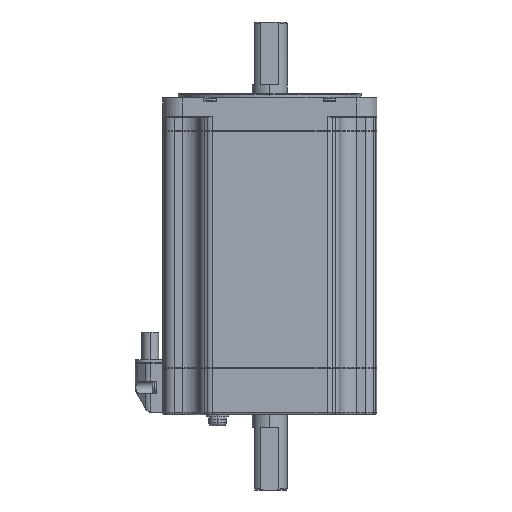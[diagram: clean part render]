
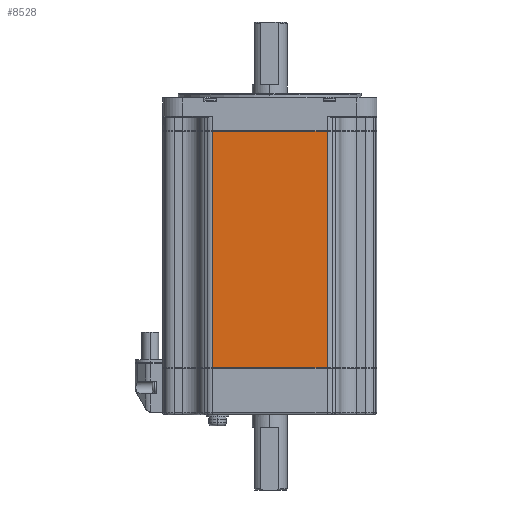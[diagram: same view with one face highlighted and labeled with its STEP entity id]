
A CAD part, left-side view. The second image highlights one B-rep face of the part: STEP entity #8528.
In plain terms, the highlighted planar face has unit normal (-1, 0, 0).
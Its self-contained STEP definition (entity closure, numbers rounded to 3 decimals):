
#4601 = EDGE_LOOP ( 'NONE', ( #14474, #14472, #14473, #14471 ) ) ;
#5608 = PLANE ( 'NONE',  #20080 ) ;
#5609 = CARTESIAN_POINT ( 'NONE',  ( -42.75, 22.879, -108.2 ) ) ;
#5610 = DIRECTION ( 'NONE',  ( 1., 0., 0. ) ) ;
#5611 = DIRECTION ( 'NONE',  ( 0., 0., -1. ) ) ;
#5734 = CARTESIAN_POINT ( 'NONE',  ( -42.75, 22.879, -13.7 ) ) ;
#5735 = DIRECTION ( 'NONE',  ( 0., 1., 0. ) ) ;
#5736 = CARTESIAN_POINT ( 'NONE',  ( -42.75, 22.879, -108.2 ) ) ;
#5737 = DIRECTION ( 'NONE',  ( 0., 0., 1. ) ) ;
#5738 = CARTESIAN_POINT ( 'NONE',  ( -42.75, 22.879, -108. ) ) ;
#5739 = DIRECTION ( 'NONE',  ( 0., -1., 0. ) ) ;
#5743 = CARTESIAN_POINT ( 'NONE',  ( -42.75, -22.879, -108.2 ) ) ;
#5744 = DIRECTION ( 'NONE',  ( 0., 0., 1. ) ) ;
#8528 = ADVANCED_FACE ( 'NONE', ( #10710 ), #5608, .F. ) ;
#10667 = LINE ( 'NONE', #5743, #20008 ) ;
#10668 = LINE ( 'NONE', #5738, #20011 ) ;
#10669 = LINE ( 'NONE', #5736, #20013 ) ;
#10670 = LINE ( 'NONE', #5734, #20016 ) ;
#10710 = FACE_OUTER_BOUND ( 'NONE', #4601, .T. ) ;
#11174 = EDGE_CURVE ( 'NONE', #22435, #22437, #10670, .T. ) ;
#11175 = EDGE_CURVE ( 'NONE', #22436, #22437, #10669, .T. ) ;
#11176 = EDGE_CURVE ( 'NONE', #22436, #22434, #10668, .T. ) ;
#11178 = EDGE_CURVE ( 'NONE', #22434, #22435, #10667, .T. ) ;
#14471 = ORIENTED_EDGE ( 'NONE', *, *, #11174, .T. ) ;
#14472 = ORIENTED_EDGE ( 'NONE', *, *, #11176, .T. ) ;
#14473 = ORIENTED_EDGE ( 'NONE', *, *, #11178, .T. ) ;
#14474 = ORIENTED_EDGE ( 'NONE', *, *, #11175, .F. ) ;
#20008 = VECTOR ( 'NONE', #5744, 1000. ) ;
#20011 = VECTOR ( 'NONE', #5739, 1000. ) ;
#20013 = VECTOR ( 'NONE', #5737, 1000. ) ;
#20016 = VECTOR ( 'NONE', #5735, 1000. ) ;
#20080 = AXIS2_PLACEMENT_3D ( 'NONE', #5609, #5610, #5611 ) ;
#21171 = CARTESIAN_POINT ( 'NONE',  ( -42.75, -22.879, -108. ) ) ;
#21172 = CARTESIAN_POINT ( 'NONE',  ( -42.75, -22.879, -13.7 ) ) ;
#21173 = CARTESIAN_POINT ( 'NONE',  ( -42.75, 22.879, -108. ) ) ;
#21174 = CARTESIAN_POINT ( 'NONE',  ( -42.75, 22.879, -13.7 ) ) ;
#22434 = VERTEX_POINT ( 'NONE', #21171 ) ;
#22435 = VERTEX_POINT ( 'NONE', #21172 ) ;
#22436 = VERTEX_POINT ( 'NONE', #21173 ) ;
#22437 = VERTEX_POINT ( 'NONE', #21174 ) ;
